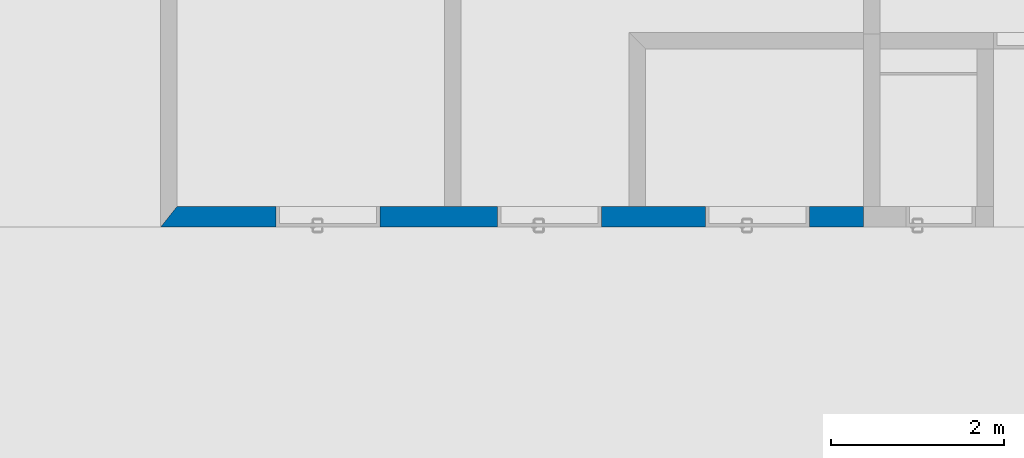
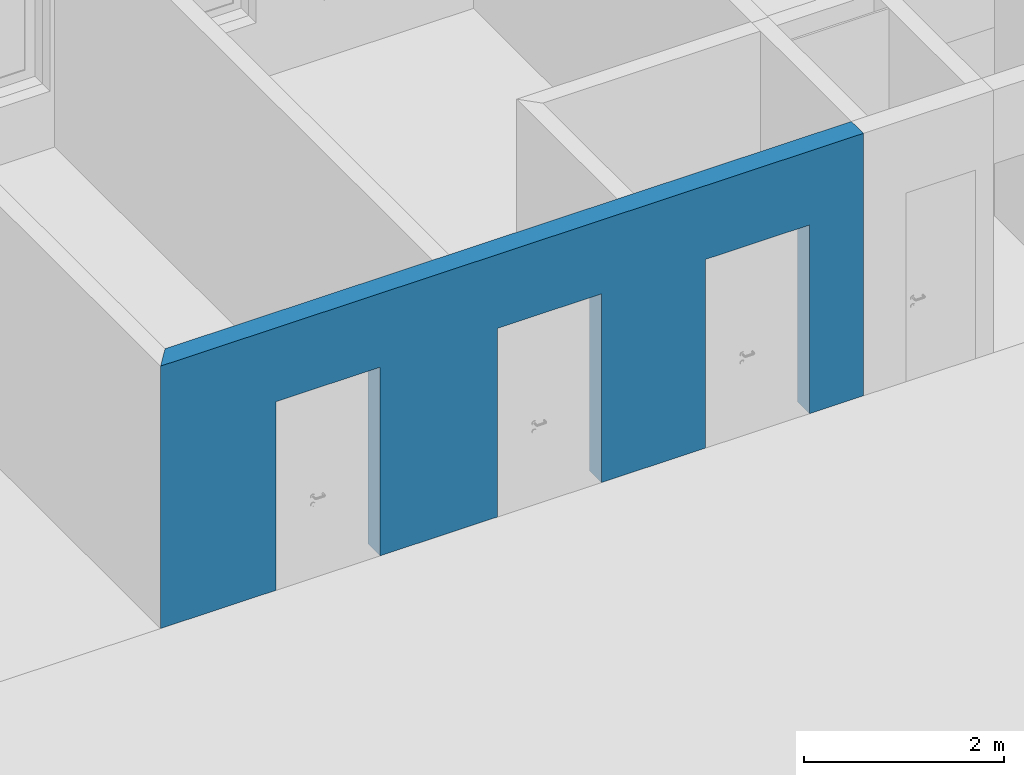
# One storey, part 10 of 62: 1 wall, 3 openings.
"""IFC2X3 building model written with IfcOpenShell, lengths in millimetres."""

from ifc_helpers import new_model, entity, si_unit, converted_unit, derived_unit, money_unit, direction, frame, origin_with_axes, origin_2d_with_axis, place, context, subcontext, project, spatial, polyline, rectangle, outline, extrude, material, layer, layer_set, layer_usage, type_object, element, save


model = new_model("IFC2X3")

# Units and contexts
model_context = context("Model", 3, precision=0.01, world=origin_with_axes(), true_north=direction((0.0, 1.0)))
body_context = subcontext(model_context, "Body", "Model", "MODEL_VIEW")
ifc_project = project(units=[si_unit("LENGTHUNIT", "METRE", prefix="MILLI"), si_unit("AREAUNIT", "SQUARE_METRE"), si_unit("VOLUMEUNIT", "CUBIC_METRE"), converted_unit("PLANEANGLEUNIT", "DEGREE", entity("IfcPlaneAngleMeasure", 0.0174532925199), si_unit("PLANEANGLEUNIT", "RADIAN"), dimensions=[0, 0, 0, 0, 0, 0, 0]), si_unit("SOLIDANGLEUNIT", "STERADIAN"), money_unit("EUR"), converted_unit("TIMEUNIT", "Year", entity("IfcTimeMeasure", 31556926.0), si_unit("TIMEUNIT", "SECOND"), dimensions=[0, 0, 1, 0, 0, 0, 0]), si_unit("MASSUNIT", "GRAM", prefix="KILO"), si_unit("THERMODYNAMICTEMPERATUREUNIT", "DEGREE_CELSIUS"), si_unit("LUMINOUSINTENSITYUNIT", "LUMEN"), si_unit("ENERGYUNIT", "JOULE", prefix="MEGA"), derived_unit("THERMALCONDUCTANCEUNIT", [(si_unit("POWERUNIT", "WATT"), 1), (si_unit("LENGTHUNIT", "METRE"), -1), (si_unit("THERMODYNAMICTEMPERATUREUNIT", "KELVIN"), -1)]), derived_unit("SPECIFICHEATCAPACITYUNIT", [(si_unit("ENERGYUNIT", "JOULE"), 1), (si_unit("MASSUNIT", "GRAM", prefix="KILO"), -1), (si_unit("THERMODYNAMICTEMPERATUREUNIT", "KELVIN"), -1)]), derived_unit("MASSDENSITYUNIT", [(si_unit("MASSUNIT", "GRAM", prefix="KILO"), 1), (si_unit("VOLUMEUNIT", "CUBIC_METRE"), -1)])], contexts=[model_context])

# Site, building, storey
site_placement = place(None, origin_with_axes())
site = spatial("IfcSite", under=ifc_project, at=site_placement, Name="KIRDE 14, ELVA", CompositionType="ELEMENT")
building_placement = place(site_placement, origin_with_axes())
building = spatial("IfcBuilding", under=site, at=building_placement, Name="PPA ja Päästeameti ühishoone", CompositionType="ELEMENT")
storey_placement = place(building_placement, origin_with_axes())
storey = spatial("IfcBuildingStorey", under=building, at=storey_placement, Name="Esimene korrus", CompositionType="ELEMENT", Elevation=0.0)

# Wall, openings
ifc_material = material(Name="COLUMBIA KIVI (BETONEERITUD)")
ifc_layer = layer(ifc_material, 240.0, ventilated="UNKNOWN")
ifc_layer_set = layer_set([ifc_layer], Name="SS-01")
ifc_layer_usage = layer_usage(ifc_layer_set, "AXIS2", "POSITIVE", 0.0)
wall_type = type_object("IfcWallType", Name="SS-01 240", PredefinedType="USERDEFINED")
wall_placement = place(storey_placement, frame((15000.0001574, 12960.0005637, 0.0), z_axis=(0.0, 0.0, 1.0), x_axis=(1.0, 3.44696097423e-10, 0.0)))
wall = element("IfcWallStandardCase", 1, at=wall_placement, inside=storey, type_object=wall_type, material=ifc_layer_usage, Name="SS-01", ObjectType="PARTITIONING", context=body_context, shape_type="SweptSolid", body=[
    extrude(outline(polyline([(-3.72529029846e-06, 0.0), (8105.59720499, 0.0), (8105.59720504, 240.0), (189.999996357, 240.0), (-3.72529029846e-06, 0.0)])), origin_with_axes(), (0.0, 0.0, 1.0), 3200.0),
])
opening_1_placement = place(wall_placement, frame((6884.83150499, 0.0, 0.0), z_axis=(0.0, 0.0, 1.0), x_axis=(1.0, 0.0, 0.0)))
element("IfcOpeningElement", 2, at=opening_1_placement, cuts=wall, Name="SU-11", context=body_context, shape_type="SweptSolid", body=[
    extrude(rectangle(XDim=1200.0, YDim=2300.0, at=origin_2d_with_axis()), frame((8.27284907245e-08, 240.0, 1150.0), z_axis=(3.44696097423e-10, 1.0, 0.0), x_axis=(1.0, -3.44696219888e-10, 0.0)), (0.0, 0.0, -1.0), 720.0),
])
opening_2_placement = place(wall_placement, frame((4484.83150499, 0.0, 0.0), z_axis=(0.0, 0.0, 1.0), x_axis=(1.0, 0.0, 0.0)))
element("IfcOpeningElement", 3, at=opening_2_placement, cuts=wall, Name="SU-10*", context=body_context, shape_type="SweptSolid", body=[
    extrude(rectangle(XDim=1200.0, YDim=2300.0, at=origin_2d_with_axis()), frame((8.27284907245e-08, 240.0, 1150.0), z_axis=(3.44696097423e-10, 1.0, 0.0), x_axis=(1.0, -3.44696219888e-10, 0.0)), (0.0, 0.0, -1.0), 720.0),
])
opening_3_placement = place(wall_placement, frame((1932.40189797, 0.0, 0.0), z_axis=(0.0, 0.0, 1.0), x_axis=(1.0, 0.0, 0.0)))
element("IfcOpeningElement", 4, at=opening_3_placement, cuts=wall, Name="SU-10*", context=body_context, shape_type="SweptSolid", body=[
    extrude(rectangle(XDim=1200.0, YDim=2300.0, at=origin_2d_with_axis()), frame((8.27284907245e-08, 240.0, 1150.0), z_axis=(3.44696097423e-10, 1.0, 0.0), x_axis=(1.0, -3.44696219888e-10, 0.0)), (0.0, 0.0, -1.0), 720.0),
])

save(model, "model.ifc")
